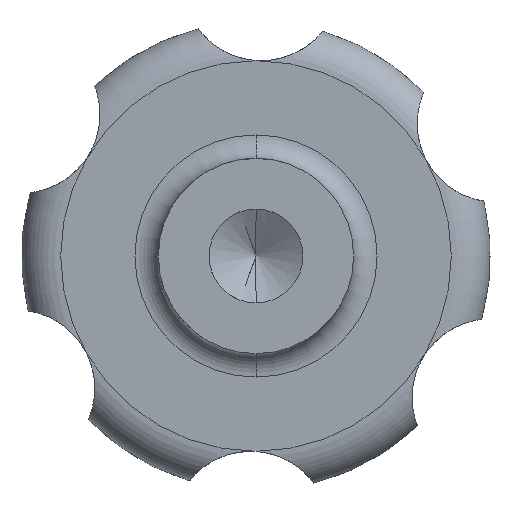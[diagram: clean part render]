
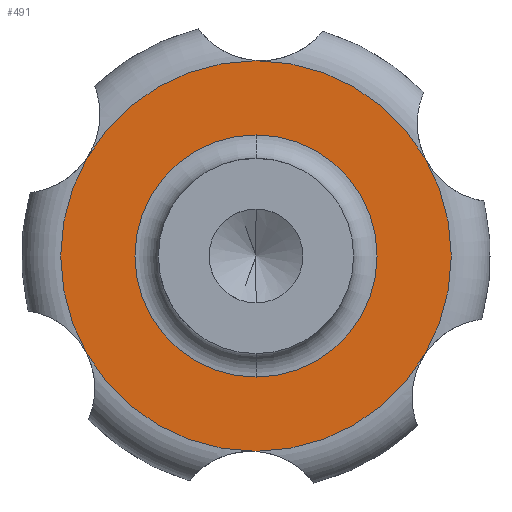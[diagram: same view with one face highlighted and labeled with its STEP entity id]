
A CAD part, front view. The second image highlights one B-rep face of the part: STEP entity #491.
In plain terms, the highlighted planar face has unit normal (0, -1, 0).
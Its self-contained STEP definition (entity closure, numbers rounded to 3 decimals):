
#7 = DIRECTION ( 'NONE',  ( 0., 1., 0. ) ) ;
#37 = FACE_BOUND ( 'NONE', #1135, .T. ) ;
#54 = AXIS2_PLACEMENT_3D ( 'NONE', #1202, #1792, #928 ) ;
#70 = DIRECTION ( 'NONE',  ( 0., -1., 0. ) ) ;
#77 = CARTESIAN_POINT ( 'NONE',  ( 0., 0., 15.5 ) ) ;
#105 = DIRECTION ( 'NONE',  ( 0., 0., 1. ) ) ;
#251 = AXIS2_PLACEMENT_3D ( 'NONE', #480, #1630, #1641 ) ;
#353 = DIRECTION ( 'NONE',  ( 0., 0., 1. ) ) ;
#394 = DIRECTION ( 'NONE',  ( 0., -1., 0. ) ) ;
#401 = CIRCLE ( 'NONE', #1513, 25. ) ;
#473 = PLANE ( 'NONE',  #54 ) ;
#480 = CARTESIAN_POINT ( 'NONE',  ( 0., 0., 0. ) ) ;
#491 = ADVANCED_FACE ( 'NONE', ( #1477, #37 ), #473, .F. ) ;
#518 = CIRCLE ( 'NONE', #1695, 25. ) ;
#525 = VERTEX_POINT ( 'NONE', #1186 ) ;
#556 = DIRECTION ( 'NONE',  ( 0., 0., 1. ) ) ;
#599 = CARTESIAN_POINT ( 'NONE',  ( 0., 0., -25. ) ) ;
#605 = EDGE_LOOP ( 'NONE', ( #1735, #1043 ) ) ;
#615 = VERTEX_POINT ( 'NONE', #1381 ) ;
#731 = CARTESIAN_POINT ( 'NONE',  ( 0., 0., 0. ) ) ;
#783 = CARTESIAN_POINT ( 'NONE',  ( 0., 0., 0. ) ) ;
#825 = EDGE_CURVE ( 'NONE', #1249, #615, #518, .T. ) ;
#928 = DIRECTION ( 'NONE',  ( 0., 0., 1. ) ) ;
#989 = EDGE_CURVE ( 'NONE', #1588, #525, #1331, .T. ) ;
#995 = CIRCLE ( 'NONE', #251, 15.5 ) ;
#1043 = ORIENTED_EDGE ( 'NONE', *, *, #825, .T. ) ;
#1101 = CARTESIAN_POINT ( 'NONE',  ( 0., 0., 0. ) ) ;
#1135 = EDGE_LOOP ( 'NONE', ( #1517, #1335 ) ) ;
#1186 = CARTESIAN_POINT ( 'NONE',  ( 0., 0., -15.5 ) ) ;
#1202 = CARTESIAN_POINT ( 'NONE',  ( 0., 0., 0. ) ) ;
#1249 = VERTEX_POINT ( 'NONE', #599 ) ;
#1269 = AXIS2_PLACEMENT_3D ( 'NONE', #731, #7, #556 ) ;
#1331 = CIRCLE ( 'NONE', #1269, 15.5 ) ;
#1335 = ORIENTED_EDGE ( 'NONE', *, *, #1796, .T. ) ;
#1381 = CARTESIAN_POINT ( 'NONE',  ( 0., 0., 25. ) ) ;
#1421 = EDGE_CURVE ( 'NONE', #615, #1249, #401, .T. ) ;
#1477 = FACE_OUTER_BOUND ( 'NONE', #605, .T. ) ;
#1513 = AXIS2_PLACEMENT_3D ( 'NONE', #783, #70, #353 ) ;
#1517 = ORIENTED_EDGE ( 'NONE', *, *, #989, .T. ) ;
#1588 = VERTEX_POINT ( 'NONE', #77 ) ;
#1630 = DIRECTION ( 'NONE',  ( 0., 1., 0. ) ) ;
#1641 = DIRECTION ( 'NONE',  ( 0., 0., 1. ) ) ;
#1695 = AXIS2_PLACEMENT_3D ( 'NONE', #1101, #394, #105 ) ;
#1735 = ORIENTED_EDGE ( 'NONE', *, *, #1421, .T. ) ;
#1792 = DIRECTION ( 'NONE',  ( 0., 1., 0. ) ) ;
#1796 = EDGE_CURVE ( 'NONE', #525, #1588, #995, .T. ) ;
